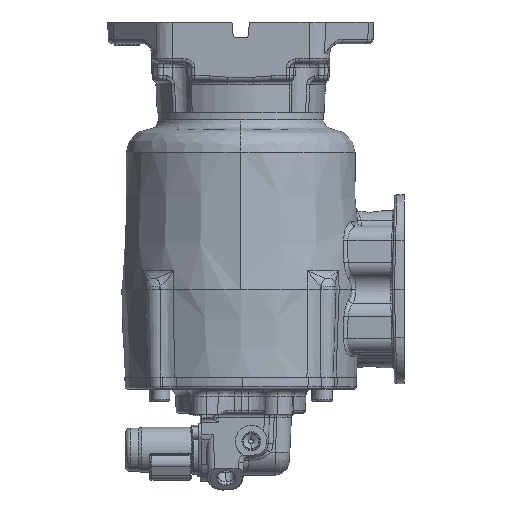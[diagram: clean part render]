
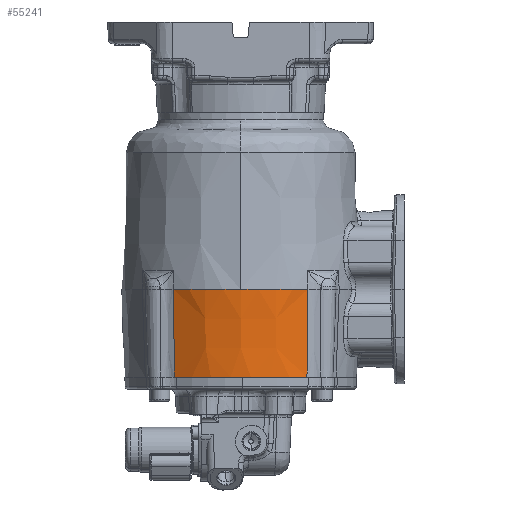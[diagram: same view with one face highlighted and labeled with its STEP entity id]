
A CAD part, left-side view. The second image highlights one B-rep face of the part: STEP entity #55241.
In plain terms, the highlighted conical face has half-angle 2 degrees and reference radius 78.232 mm.
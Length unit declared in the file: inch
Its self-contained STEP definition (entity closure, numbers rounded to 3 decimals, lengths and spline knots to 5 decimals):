
#3255 = AXIS2_PLACEMENT_3D ( 'NONE', #19081, #122814, #65586 ) ;
#8938 = VERTEX_POINT ( 'NONE', #163173 ) ;
#15489 = VERTEX_POINT ( 'NONE', #100725 ) ;
#19081 = CARTESIAN_POINT ( 'NONE',  ( -1.25, 3.3296, 0. ) ) ;
#25105 = CARTESIAN_POINT ( 'NONE',  ( -3.74025, 1.60953, -1.53104 ) ) ;
#26246 = DIRECTION ( 'NONE',  ( 1., 0., 0. ) ) ;
#31422 = VERTEX_POINT ( 'NONE', #135957 ) ;
#37808 = ORIENTED_EDGE ( 'NONE', *, *, #145143, .F. ) ;
#40593 = CARTESIAN_POINT ( 'NONE',  ( -3.79389, 1.59322, 0. ) ) ;
#54096 = ORIENTED_EDGE ( 'NONE', *, *, #160520, .F. ) ;
#55241 = ADVANCED_FACE ( 'NONE', ( #122301 ), #120901, .T. ) ;
#56958 = CARTESIAN_POINT ( 'NONE',  ( -3.71437, 5.04203, -2.2645 ) ) ;
#59722 = EDGE_CURVE ( 'NONE', #8938, #15489, #97113, .T. ) ;
#60303 = DIRECTION ( 'NONE',  ( 1., 0., 0. ) ) ;
#63160 = DIRECTION ( 'NONE',  ( 0., 0., 1. ) ) ;
#63751 = DIRECTION ( 'NONE',  ( 0., 0., 1. ) ) ;
#65586 = DIRECTION ( 'NONE',  ( 1., 0., 0. ) ) ;
#77375 = DIRECTION ( 'NONE',  ( 1., 0., 0. ) ) ;
#80248 = CARTESIAN_POINT ( 'NONE',  ( -1.25, 3.3296, 0. ) ) ;
#82527 = ORIENTED_EDGE ( 'NONE', *, *, #59722, .T. ) ;
#83807 = EDGE_CURVE ( 'NONE', #157826, #176217, #151737, .T. ) ;
#84189 = ORIENTED_EDGE ( 'NONE', *, *, #83807, .T. ) ;
#97113 = B_SPLINE_CURVE_WITH_KNOTS ( 'NONE', 3,
 ( #188027, #25105, #160818, #40593 ),
 .UNSPECIFIED., .F., .F.,
 ( 4, 4 ),
 ( 0., 1. ),
 .UNSPECIFIED. ) ;
#100725 = CARTESIAN_POINT ( 'NONE',  ( -3.79389, 1.59322, 0. ) ) ;
#101320 = CIRCLE ( 'NONE', #138547, 3.00092 ) ;
#118474 = CARTESIAN_POINT ( 'NONE',  ( -1.25, 3.3296, 0. ) ) ;
#120901 = CONICAL_SURFACE ( 'NONE', #139464, 3.08, 0.035 ) ;
#122301 = FACE_OUTER_BOUND ( 'NONE', #175230, .T. ) ;
#122478 = EDGE_CURVE ( 'NONE', #157826, #31422, #149890, .T. ) ;
#122814 = DIRECTION ( 'NONE',  ( 0., 0., 1. ) ) ;
#130172 = CIRCLE ( 'NONE', #3255, 3.08 ) ;
#135957 = CARTESIAN_POINT ( 'NONE',  ( -4.33, 3.3296, 0. ) ) ;
#138547 = AXIS2_PLACEMENT_3D ( 'NONE', #174633, #159105, #26246 ) ;
#139464 = AXIS2_PLACEMENT_3D ( 'NONE', #118474, #63160, #60303 ) ;
#145143 = EDGE_CURVE ( 'NONE', #8938, #176217, #101320, .T. ) ;
#148204 = CARTESIAN_POINT ( 'NONE',  ( -3.71437, 5.04203, -2.2645 ) ) ;
#149890 = CIRCLE ( 'NONE', #190197, 3.08 ) ;
#151737 = B_SPLINE_CURVE_WITH_KNOTS ( 'NONE', 3,
 ( #179139, #175303, #163611, #56958 ),
 .UNSPECIFIED., .F., .F.,
 ( 4, 4 ),
 ( 0., 1. ),
 .UNSPECIFIED. ) ;
#157826 = VERTEX_POINT ( 'NONE', #186094 ) ;
#159105 = DIRECTION ( 'NONE',  ( 0., 0., -1. ) ) ;
#160520 = EDGE_CURVE ( 'NONE', #31422, #15489, #130172, .T. ) ;
#160818 = CARTESIAN_POINT ( 'NONE',  ( -3.76676, 1.60154, -0.77621 ) ) ;
#163173 = CARTESIAN_POINT ( 'NONE',  ( -3.71437, 1.61717, -2.2645 ) ) ;
#163611 = CARTESIAN_POINT ( 'NONE',  ( -3.74025, 5.04967, -1.53104 ) ) ;
#174633 = CARTESIAN_POINT ( 'NONE',  ( -1.25, 3.3296, -2.2645 ) ) ;
#175230 = EDGE_LOOP ( 'NONE', ( #182968, #84189, #37808, #82527, #54096 ) ) ;
#175303 = CARTESIAN_POINT ( 'NONE',  ( -3.76676, 5.05766, -0.77621 ) ) ;
#176217 = VERTEX_POINT ( 'NONE', #148204 ) ;
#179139 = CARTESIAN_POINT ( 'NONE',  ( -3.79389, 5.06598, 0. ) ) ;
#182968 = ORIENTED_EDGE ( 'NONE', *, *, #122478, .F. ) ;
#186094 = CARTESIAN_POINT ( 'NONE',  ( -3.79389, 5.06598, 0. ) ) ;
#188027 = CARTESIAN_POINT ( 'NONE',  ( -3.71437, 1.61717, -2.2645 ) ) ;
#190197 = AXIS2_PLACEMENT_3D ( 'NONE', #80248, #63751, #77375 ) ;
